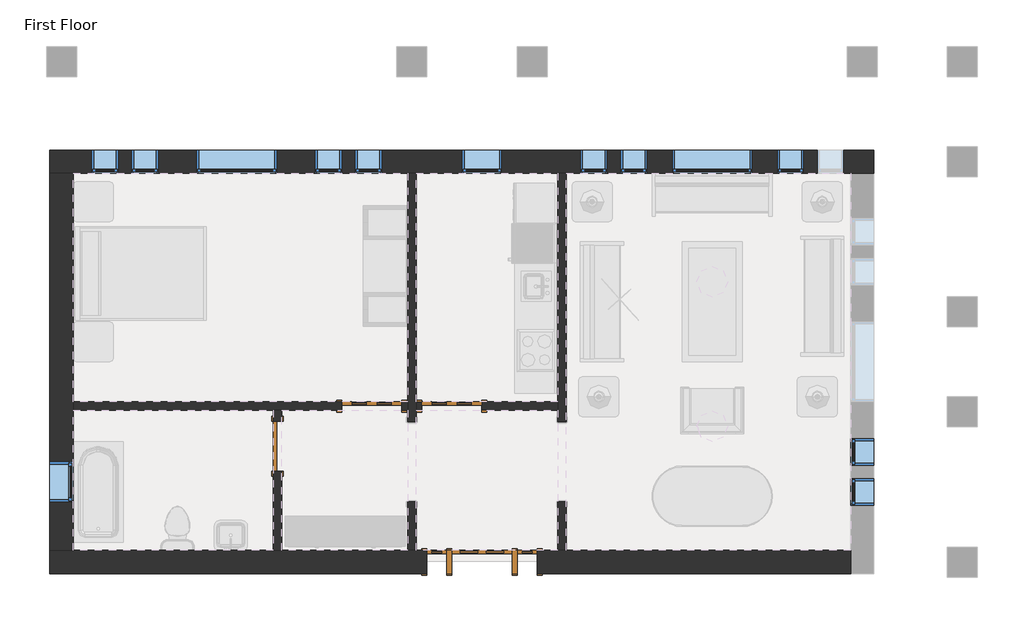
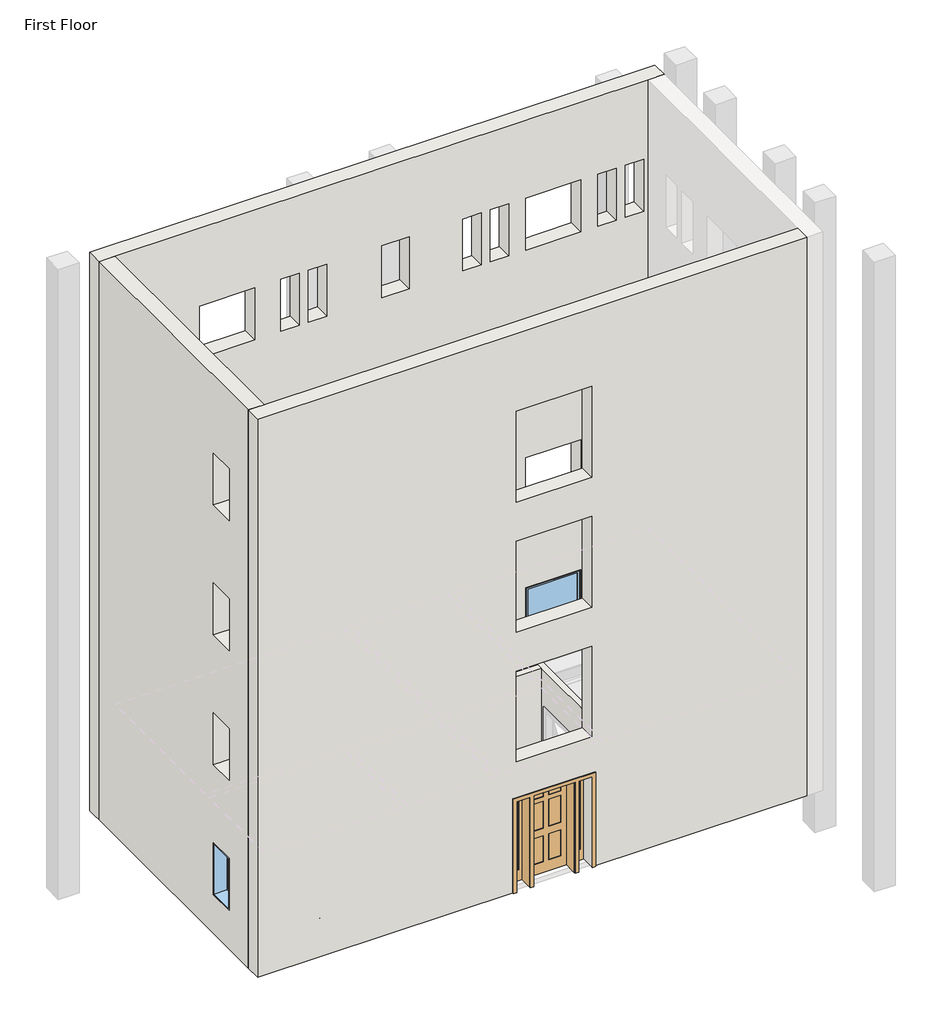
# One storey, part 1 of 2: 13 windows, 8 walls, 4 doors.
"""IFC4 building model written with IfcOpenShell, lengths in millimetres."""

from ifc_helpers import new_model, si_unit, frame, origin, place, context, project, spatial, polyline, outline, extrude, faceted_brep, transform, mapped, element, save
from components import door_829da954, door_2e3b4da2, door_4d6c7550, door_dba5aa2e, window_da97879f, window_d61ef850, window_60baf983, window_6eb97611

model = new_model("IFC4")

# Units and contexts
model_context = context("Model", 3, world=origin())
ifc_project = project(units=[si_unit("LENGTHUNIT", "METRE", prefix="MILLI")], contexts=[model_context])

# Site, building, storey
site = spatial("IfcSite", under=ifc_project)
building = spatial("IfcBuilding", under=site)
storey = spatial("IfcBuildingStorey", under=building, Name="First Floor", Elevation=0.0)

# Doors
placement = place(None, origin())
door_shape = door_829da954(model_context)
element("IfcDoor", 1, ObjectType="Single-Decorative 2 : 36\" x 84\"", at=placement, inside=storey, context=model_context, shape_type="MappedRepresentation", body=[
    mapped(door_shape, transform((-5449.8589563, 6723.5441867, 0.0), x_axis=(-1.0, 0.0, 0.0), y_axis=(0.0, -1.0, 0.0), z_axis=(0.0, 0.0, 1.0))),
])
door_2_shape = door_2e3b4da2(model_context)
element("IfcDoor", 2, ObjectType="Single-Decorative 2 : 36\" x 84\"", at=placement, inside=storey, context=model_context, shape_type="MappedRepresentation", body=[
    mapped(door_2_shape, transform((-6669.0589563, 6723.5441867, 0.0), x_axis=(1.0, 0.0, 0.0), y_axis=(0.0, 1.0, 0.0), z_axis=(0.0, 0.0, 1.0))),
])
door_3_shape = door_4d6c7550(model_context)
element("IfcDoor", 3, ObjectType="Single-Flush : 30\" x 84\"", at=placement, inside=storey, context=model_context, shape_type="MappedRepresentation", body=[
    mapped(door_3_shape, transform((-8105.7464563, 6113.9441867, 0.0), x_axis=(0.0, 1.0, 0.0), y_axis=(-1.0, 0.0, 0.0), z_axis=(0.0, 0.0, 1.0))),
])
door_4_shape = door_dba5aa2e(model_context)
element("IfcDoor", 4, ObjectType="Single-Raised Panel with Sidelights : 36\" x 84\"", at=placement, inside=storey, context=model_context, shape_type="MappedRepresentation", body=[
    mapped(door_4_shape, transform((-4992.6589563, 4350.2316867, 0.0), x_axis=(-1.0, 0.0, 0.0), y_axis=(0.0, -1.0, 0.0), z_axis=(0.0, 0.0, 1.0))),
])

# Walls
element("IfcWall", 5, ObjectType="Exterior - Brick on Mtl. Stud", at=placement, inside=storey, context=model_context, shape_type="Brep", body=[
    faceted_brep([(-11569.6714563, 10270.0191867, 13106.4), (-11217.2464563, 10270.0191867, 13106.4), (622.3285437, 10270.0191867, 13106.4), (974.7535437, 10270.0191867, 13106.4), (974.7535437, 10622.4441867, 13106.4), (-11569.6714563, 10622.4441867, 13106.4), (-11569.6714563, 10270.0191867, 0.0), (-11382.3464563, 10270.0191867, 0.0), (-11217.2464563, 10270.0191867, 0.0), (-6122.9589563, 10270.0191867, 0.0), (-5995.9589563, 10270.0191867, 0.0), (-3836.9589563, 10270.0191867, 0.0), (-3709.9589563, 10270.0191867, 0.0), (622.3285437, 10270.0191867, 0.0), (787.4285437, 10270.0191867, 0.0), (974.7535437, 10270.0191867, 0.0), (-90.4589563, 10270.0191867, 8229.6), (-90.4589563, 10270.0191867, 7010.4), (-496.8589563, 10270.0191867, 7010.4), (-496.8589563, 10270.0191867, 8229.6), (519.1410437, 10270.0191867, 8229.6), (519.1410437, 10270.0191867, 7010.4), (112.7410437, 10270.0191867, 7010.4), (112.7410437, 10270.0191867, 8229.6), (-2884.4589563, 10270.0191867, 8229.6), (-2478.0589563, 10270.0191867, 8229.6), (-2478.0589563, 10270.0191867, 7010.4), (-2884.4589563, 10270.0191867, 7010.4), (-3494.0589563, 10270.0191867, 8229.6), (-3087.6589563, 10270.0191867, 8229.6), (-3087.6589563, 10270.0191867, 7010.4), (-3494.0589563, 10270.0191867, 7010.4), (-7126.2589563, 10270.0191867, 8229.6), (-7126.2589563, 10270.0191867, 7010.4), (-7532.6589563, 10270.0191867, 7010.4), (-7532.6589563, 10270.0191867, 8229.6), (-6516.6589563, 10270.0191867, 8229.6), (-6516.6589563, 10270.0191867, 7010.4), (-6923.0589563, 10270.0191867, 7010.4), (-6923.0589563, 10270.0191867, 8229.6), (-10326.6589563, 10270.0191867, 8229.6), (-9920.2589563, 10270.0191867, 8229.6), (-9920.2589563, 10270.0191867, 7010.4), (-10326.6589563, 10270.0191867, 7010.4), (-10936.2589563, 10270.0191867, 8229.6), (-10529.8589563, 10270.0191867, 8229.6), (-10529.8589563, 10270.0191867, 7010.4), (-10936.2589563, 10270.0191867, 7010.4), (-2097.0589563, 10270.0191867, 8229.6), (-877.8589563, 10270.0191867, 8229.6), (-877.8589563, 10270.0191867, 7010.4), (-2097.0589563, 10270.0191867, 7010.4), (-9336.0589563, 10270.0191867, 8229.6), (-8116.8589563, 10270.0191867, 8229.6), (-8116.8589563, 10270.0191867, 7010.4), (-9336.0589563, 10270.0191867, 7010.4), (-5297.4589563, 10270.0191867, 8229.6), (-4687.8589563, 10270.0191867, 8229.6), (-4687.8589563, 10270.0191867, 7010.4), (-5297.4589563, 10270.0191867, 7010.4), (-90.4589563, 10270.0191867, 5181.6), (-90.4589563, 10270.0191867, 3962.4), (-496.8589563, 10270.0191867, 3962.4), (-496.8589563, 10270.0191867, 5181.6), (519.1410437, 10270.0191867, 5181.6), (519.1410437, 10270.0191867, 3962.4), (112.7410437, 10270.0191867, 3962.4), (112.7410437, 10270.0191867, 5181.6), (-2884.4589563, 10270.0191867, 5181.6), (-2478.0589563, 10270.0191867, 5181.6), (-2478.0589563, 10270.0191867, 3962.4), (-2884.4589563, 10270.0191867, 3962.4), (-3494.0589563, 10270.0191867, 5181.6), (-3087.6589563, 10270.0191867, 5181.6), (-3087.6589563, 10270.0191867, 3962.4), (-3494.0589563, 10270.0191867, 3962.4), (-7126.2589563, 10270.0191867, 5181.6), (-7126.2589563, 10270.0191867, 3962.4), (-7532.6589563, 10270.0191867, 3962.4), (-7532.6589563, 10270.0191867, 5181.6), (-6516.6589563, 10270.0191867, 5181.6), (-6516.6589563, 10270.0191867, 3962.4), (-6923.0589563, 10270.0191867, 3962.4), (-6923.0589563, 10270.0191867, 5181.6), (-10326.6589563, 10270.0191867, 5181.6), (-9920.2589563, 10270.0191867, 5181.6), (-9920.2589563, 10270.0191867, 3962.4), (-10326.6589563, 10270.0191867, 3962.4), (-10936.2589563, 10270.0191867, 5181.6), (-10529.8589563, 10270.0191867, 5181.6), (-10529.8589563, 10270.0191867, 3962.4), (-10936.2589563, 10270.0191867, 3962.4), (-2097.0589563, 10270.0191867, 5181.6), (-877.8589563, 10270.0191867, 5181.6), (-877.8589563, 10270.0191867, 3962.4), (-2097.0589563, 10270.0191867, 3962.4), (-9336.0589563, 10270.0191867, 5181.6), (-8116.8589563, 10270.0191867, 5181.6), (-8116.8589563, 10270.0191867, 3962.4), (-9336.0589563, 10270.0191867, 3962.4), (-5297.4589563, 10270.0191867, 5181.6), (-4687.8589563, 10270.0191867, 5181.6), (-4687.8589563, 10270.0191867, 3962.4), (-5297.4589563, 10270.0191867, 3962.4), (-90.4589563, 10270.0191867, 11277.6), (-90.4589563, 10270.0191867, 10058.4), (-496.8589563, 10270.0191867, 10058.4), (-496.8589563, 10270.0191867, 11277.6), (519.1410437, 10270.0191867, 11277.6), (519.1410437, 10270.0191867, 10058.4), (112.7410437, 10270.0191867, 10058.4), (112.7410437, 10270.0191867, 11277.6), (-2884.4589563, 10270.0191867, 11277.6), (-2478.0589563, 10270.0191867, 11277.6), (-2478.0589563, 10270.0191867, 10058.4), (-2884.4589563, 10270.0191867, 10058.4), (-3494.0589563, 10270.0191867, 11277.6), (-3087.6589563, 10270.0191867, 11277.6), (-3087.6589563, 10270.0191867, 10058.4), (-3494.0589563, 10270.0191867, 10058.4), (-7126.2589563, 10270.0191867, 11277.6), (-7126.2589563, 10270.0191867, 10058.4), (-7532.6589563, 10270.0191867, 10058.4), (-7532.6589563, 10270.0191867, 11277.6), (-6516.6589563, 10270.0191867, 11277.6), (-6516.6589563, 10270.0191867, 10058.4), (-6923.0589563, 10270.0191867, 10058.4), (-6923.0589563, 10270.0191867, 11277.6), (-10326.6589563, 10270.0191867, 11277.6), (-9920.2589563, 10270.0191867, 11277.6), (-9920.2589563, 10270.0191867, 10058.4), (-10326.6589563, 10270.0191867, 10058.4), (-10936.2589563, 10270.0191867, 11277.6), (-10529.8589563, 10270.0191867, 11277.6), (-10529.8589563, 10270.0191867, 10058.4), (-10936.2589563, 10270.0191867, 10058.4), (-2097.0589563, 10270.0191867, 11277.6), (-877.8589563, 10270.0191867, 11277.6), (-877.8589563, 10270.0191867, 10058.4), (-2097.0589563, 10270.0191867, 10058.4), (-9336.0589563, 10270.0191867, 11277.6), (-8116.8589563, 10270.0191867, 11277.6), (-8116.8589563, 10270.0191867, 10058.4), (-9336.0589563, 10270.0191867, 10058.4), (-5297.4589563, 10270.0191867, 11277.6), (-4687.8589563, 10270.0191867, 11277.6), (-4687.8589563, 10270.0191867, 10058.4), (-5297.4589563, 10270.0191867, 10058.4), (-2884.4589563, 10270.0191867, 2133.6), (-2478.0589563, 10270.0191867, 2133.6), (-2478.0589563, 10270.0191867, 914.4), (-2884.4589563, 10270.0191867, 914.4), (-3494.0589563, 10270.0191867, 2133.6), (-3087.6589563, 10270.0191867, 2133.6), (-3087.6589563, 10270.0191867, 914.4), (-3494.0589563, 10270.0191867, 914.4), (-10326.6589563, 10270.0191867, 2133.6), (-9920.2589563, 10270.0191867, 2133.6), (-9920.2589563, 10270.0191867, 914.4), (-10326.6589563, 10270.0191867, 914.4), (-10936.2589563, 10270.0191867, 2133.6), (-10529.8589563, 10270.0191867, 2133.6), (-10529.8589563, 10270.0191867, 914.4), (-10936.2589563, 10270.0191867, 914.4), (-2097.0589563, 10270.0191867, 2133.6), (-877.8589563, 10270.0191867, 2133.6), (-877.8589563, 10270.0191867, 914.4), (-2097.0589563, 10270.0191867, 914.4), (-9336.0589563, 10270.0191867, 2133.6), (-8116.8589563, 10270.0191867, 2133.6), (-8116.8589563, 10270.0191867, 914.4), (-9336.0589563, 10270.0191867, 914.4), (-5297.4589563, 10270.0191867, 2133.6), (-4687.8589563, 10270.0191867, 2133.6), (-4687.8589563, 10270.0191867, 914.4), (-5297.4589563, 10270.0191867, 914.4), (-6516.6589563, 10270.0191867, 2133.6), (-6516.6589563, 10270.0191867, 914.4), (-6923.0589563, 10270.0191867, 914.4), (-6923.0589563, 10270.0191867, 2133.6), (-7126.2589563, 10270.0191867, 2133.6), (-7126.2589563, 10270.0191867, 914.4), (-7532.6589563, 10270.0191867, 914.4), (-7532.6589563, 10270.0191867, 2133.6), (519.1410437, 10270.0191867, 2133.6), (519.1410437, 10270.0191867, 914.4), (112.7410437, 10270.0191867, 914.4), (112.7410437, 10270.0191867, 2133.6), (-90.4589563, 10270.0191867, 2133.6), (-90.4589563, 10270.0191867, 914.4), (-496.8589563, 10270.0191867, 914.4), (-496.8589563, 10270.0191867, 2133.6), (-11569.6714563, 10622.4441867, 0.0), (974.7535437, 10622.4441867, 0.0), (787.4285437, 10622.4441867, 0.0), (-11382.3464563, 10622.4441867, 0.0), (-90.4589563, 10622.4441867, 8229.6), (-496.8589563, 10622.4441867, 8229.6), (-496.8589563, 10622.4441867, 7010.4), (-90.4589563, 10622.4441867, 7010.4), (519.1410437, 10622.4441867, 8229.6), (112.7410437, 10622.4441867, 8229.6), (112.7410437, 10622.4441867, 7010.4), (519.1410437, 10622.4441867, 7010.4), (-2884.4589563, 10622.4441867, 8229.6), (-2884.4589563, 10622.4441867, 7010.4), (-2478.0589563, 10622.4441867, 7010.4), (-2478.0589563, 10622.4441867, 8229.6), (-3494.0589563, 10622.4441867, 8229.6), (-3494.0589563, 10622.4441867, 7010.4), (-3087.6589563, 10622.4441867, 7010.4), (-3087.6589563, 10622.4441867, 8229.6), (-7126.2589563, 10622.4441867, 8229.6), (-7532.6589563, 10622.4441867, 8229.6), (-7532.6589563, 10622.4441867, 7010.4), (-7126.2589563, 10622.4441867, 7010.4), (-6516.6589563, 10622.4441867, 8229.6), (-6923.0589563, 10622.4441867, 8229.6), (-6923.0589563, 10622.4441867, 7010.4), (-6516.6589563, 10622.4441867, 7010.4), (-10326.6589563, 10622.4441867, 8229.6), (-10326.6589563, 10622.4441867, 7010.4), (-9920.2589563, 10622.4441867, 7010.4), (-9920.2589563, 10622.4441867, 8229.6), (-10936.2589563, 10622.4441867, 8229.6), (-10936.2589563, 10622.4441867, 7010.4), (-10529.8589563, 10622.4441867, 7010.4), (-10529.8589563, 10622.4441867, 8229.6), (-2097.0589563, 10622.4441867, 8229.6), (-2097.0589563, 10622.4441867, 7010.4), (-877.8589563, 10622.4441867, 7010.4), (-877.8589563, 10622.4441867, 8229.6), (-9336.0589563, 10622.4441867, 8229.6), (-9336.0589563, 10622.4441867, 7010.4), (-8116.8589563, 10622.4441867, 7010.4), (-8116.8589563, 10622.4441867, 8229.6), (-5297.4589563, 10622.4441867, 8229.6), (-5297.4589563, 10622.4441867, 7010.4), (-4687.8589563, 10622.4441867, 7010.4), (-4687.8589563, 10622.4441867, 8229.6), (-90.4589563, 10622.4441867, 5181.6), (-496.8589563, 10622.4441867, 5181.6), (-496.8589563, 10622.4441867, 3962.4), (-90.4589563, 10622.4441867, 3962.4), (519.1410437, 10622.4441867, 5181.6), (112.7410437, 10622.4441867, 5181.6), (112.7410437, 10622.4441867, 3962.4), (519.1410437, 10622.4441867, 3962.4), (-2884.4589563, 10622.4441867, 5181.6), (-2884.4589563, 10622.4441867, 3962.4), (-2478.0589563, 10622.4441867, 3962.4), (-2478.0589563, 10622.4441867, 5181.6), (-3494.0589563, 10622.4441867, 5181.6), (-3494.0589563, 10622.4441867, 3962.4), (-3087.6589563, 10622.4441867, 3962.4), (-3087.6589563, 10622.4441867, 5181.6), (-7126.2589563, 10622.4441867, 5181.6), (-7532.6589563, 10622.4441867, 5181.6), (-7532.6589563, 10622.4441867, 3962.4), (-7126.2589563, 10622.4441867, 3962.4), (-6516.6589563, 10622.4441867, 5181.6), (-6923.0589563, 10622.4441867, 5181.6), (-6923.0589563, 10622.4441867, 3962.4), (-6516.6589563, 10622.4441867, 3962.4), (-10326.6589563, 10622.4441867, 5181.6), (-10326.6589563, 10622.4441867, 3962.4), (-9920.2589563, 10622.4441867, 3962.4), (-9920.2589563, 10622.4441867, 5181.6), (-10936.2589563, 10622.4441867, 5181.6), (-10936.2589563, 10622.4441867, 3962.4), (-10529.8589563, 10622.4441867, 3962.4), (-10529.8589563, 10622.4441867, 5181.6), (-2097.0589563, 10622.4441867, 5181.6), (-2097.0589563, 10622.4441867, 3962.4), (-877.8589563, 10622.4441867, 3962.4), (-877.8589563, 10622.4441867, 5181.6), (-9336.0589563, 10622.4441867, 5181.6), (-9336.0589563, 10622.4441867, 3962.4), (-8116.8589563, 10622.4441867, 3962.4), (-8116.8589563, 10622.4441867, 5181.6), (-5297.4589563, 10622.4441867, 5181.6), (-5297.4589563, 10622.4441867, 3962.4), (-4687.8589563, 10622.4441867, 3962.4), (-4687.8589563, 10622.4441867, 5181.6), (-90.4589563, 10622.4441867, 11277.6), (-496.8589563, 10622.4441867, 11277.6), (-496.8589563, 10622.4441867, 10058.4), (-90.4589563, 10622.4441867, 10058.4), (519.1410437, 10622.4441867, 11277.6), (112.7410437, 10622.4441867, 11277.6), (112.7410437, 10622.4441867, 10058.4), (519.1410437, 10622.4441867, 10058.4), (-2884.4589563, 10622.4441867, 11277.6), (-2884.4589563, 10622.4441867, 10058.4), (-2478.0589563, 10622.4441867, 10058.4), (-2478.0589563, 10622.4441867, 11277.6), (-3494.0589563, 10622.4441867, 11277.6), (-3494.0589563, 10622.4441867, 10058.4), (-3087.6589563, 10622.4441867, 10058.4), (-3087.6589563, 10622.4441867, 11277.6), (-7126.2589563, 10622.4441867, 11277.6), (-7532.6589563, 10622.4441867, 11277.6), (-7532.6589563, 10622.4441867, 10058.4), (-7126.2589563, 10622.4441867, 10058.4), (-6516.6589563, 10622.4441867, 11277.6), (-6923.0589563, 10622.4441867, 11277.6), (-6923.0589563, 10622.4441867, 10058.4), (-6516.6589563, 10622.4441867, 10058.4), (-10326.6589563, 10622.4441867, 11277.6), (-10326.6589563, 10622.4441867, 10058.4), (-9920.2589563, 10622.4441867, 10058.4), (-9920.2589563, 10622.4441867, 11277.6), (-10936.2589563, 10622.4441867, 11277.6), (-10936.2589563, 10622.4441867, 10058.4), (-10529.8589563, 10622.4441867, 10058.4), (-10529.8589563, 10622.4441867, 11277.6), (-2097.0589563, 10622.4441867, 11277.6), (-2097.0589563, 10622.4441867, 10058.4), (-877.8589563, 10622.4441867, 10058.4), (-877.8589563, 10622.4441867, 11277.6), (-9336.0589563, 10622.4441867, 11277.6), (-9336.0589563, 10622.4441867, 10058.4), (-8116.8589563, 10622.4441867, 10058.4), (-8116.8589563, 10622.4441867, 11277.6), (-5297.4589563, 10622.4441867, 11277.6), (-5297.4589563, 10622.4441867, 10058.4), (-4687.8589563, 10622.4441867, 10058.4), (-4687.8589563, 10622.4441867, 11277.6), (-2884.4589563, 10622.4441867, 2133.6), (-2884.4589563, 10622.4441867, 914.4), (-2478.0589563, 10622.4441867, 914.4), (-2478.0589563, 10622.4441867, 2133.6), (-3494.0589563, 10622.4441867, 2133.6), (-3494.0589563, 10622.4441867, 914.4), (-3087.6589563, 10622.4441867, 914.4), (-3087.6589563, 10622.4441867, 2133.6), (-10326.6589563, 10622.4441867, 2133.6), (-10326.6589563, 10622.4441867, 914.4), (-9920.2589563, 10622.4441867, 914.4), (-9920.2589563, 10622.4441867, 2133.6), (-10936.2589563, 10622.4441867, 2133.6), (-10936.2589563, 10622.4441867, 914.4), (-10529.8589563, 10622.4441867, 914.4), (-10529.8589563, 10622.4441867, 2133.6), (-2097.0589563, 10622.4441867, 2133.6), (-2097.0589563, 10622.4441867, 914.4), (-877.8589563, 10622.4441867, 914.4), (-877.8589563, 10622.4441867, 2133.6), (-9336.0589563, 10622.4441867, 2133.6), (-9336.0589563, 10622.4441867, 914.4), (-8116.8589563, 10622.4441867, 914.4), (-8116.8589563, 10622.4441867, 2133.6), (-5297.4589563, 10622.4441867, 2133.6), (-5297.4589563, 10622.4441867, 914.4), (-4687.8589563, 10622.4441867, 914.4), (-4687.8589563, 10622.4441867, 2133.6), (-6516.6589563, 10622.4441867, 2133.6), (-6923.0589563, 10622.4441867, 2133.6), (-6923.0589563, 10622.4441867, 914.4), (-6516.6589563, 10622.4441867, 914.4), (-7126.2589563, 10622.4441867, 2133.6), (-7532.6589563, 10622.4441867, 2133.6), (-7532.6589563, 10622.4441867, 914.4), (-7126.2589563, 10622.4441867, 914.4), (519.1410437, 10622.4441867, 2133.6), (112.7410437, 10622.4441867, 2133.6), (112.7410437, 10622.4441867, 914.4), (519.1410437, 10622.4441867, 914.4), (-90.4589563, 10622.4441867, 2133.6), (-496.8589563, 10622.4441867, 2133.6), (-496.8589563, 10622.4441867, 914.4), (-90.4589563, 10622.4441867, 914.4), (974.7535437, 10435.1191867, 0.0), (-11569.6714563, 10435.1191867, 0.0), (-11382.3464563, 10435.1191867, 0.0), (787.4285437, 10435.1191867, 0.0)], [[[0, 1, 2, 3, 4, 5]], [[6, 7, 8, 9, 10, 11, 12, 13, 14, 15, 3, 2, 1, 0], [16, 17, 18, 19], [20, 21, 22, 23], [24, 25, 26, 27], [28, 29, 30, 31], [32, 33, 34, 35], [36, 37, 38, 39], [40, 41, 42, 43], [44, 45, 46, 47], [48, 49, 50, 51], [52, 53, 54, 55], [56, 57, 58, 59], [60, 61, 62, 63], [64, 65, 66, 67], [68, 69, 70, 71], [72, 73, 74, 75], [76, 77, 78, 79], [80, 81, 82, 83], [84, 85, 86, 87], [88, 89, 90, 91], [92, 93, 94, 95], [96, 97, 98, 99], [100, 101, 102, 103], [104, 105, 106, 107], [108, 109, 110, 111], [112, 113, 114, 115], [116, 117, 118, 119], [120, 121, 122, 123], [124, 125, 126, 127], [128, 129, 130, 131], [132, 133, 134, 135], [136, 137, 138, 139], [140, 141, 142, 143], [144, 145, 146, 147], [148, 149, 150, 151], [152, 153, 154, 155], [156, 157, 158, 159], [160, 161, 162, 163], [164, 165, 166, 167], [168, 169, 170, 171], [172, 173, 174, 175], [176, 177, 178, 179], [180, 181, 182, 183], [184, 185, 186, 187], [188, 189, 190, 191]], [[192, 5, 4, 193, 194, 195], [196, 197, 198, 199], [200, 201, 202, 203], [204, 205, 206, 207], [208, 209, 210, 211], [212, 213, 214, 215], [216, 217, 218, 219], [220, 221, 222, 223], [224, 225, 226, 227], [228, 229, 230, 231], [232, 233, 234, 235], [236, 237, 238, 239], [240, 241, 242, 243], [244, 245, 246, 247], [248, 249, 250, 251], [252, 253, 254, 255], [256, 257, 258, 259], [260, 261, 262, 263], [264, 265, 266, 267], [268, 269, 270, 271], [272, 273, 274, 275], [276, 277, 278, 279], [280, 281, 282, 283], [284, 285, 286, 287], [288, 289, 290, 291], [292, 293, 294, 295], [296, 297, 298, 299], [300, 301, 302, 303], [304, 305, 306, 307], [308, 309, 310, 311], [312, 313, 314, 315], [316, 317, 318, 319], [320, 321, 322, 323], [324, 325, 326, 327], [328, 329, 330, 331], [332, 333, 334, 335], [336, 337, 338, 339], [340, 341, 342, 343], [344, 345, 346, 347], [348, 349, 350, 351], [352, 353, 354, 355], [356, 357, 358, 359], [360, 361, 362, 363], [364, 365, 366, 367], [368, 369, 370, 371]], [[3, 15, 372, 193, 4]], [[6, 0, 5, 192, 373]], [[7, 6, 373, 374]], [[373, 192, 195, 374]], [[15, 14, 375, 372]], [[195, 194, 375, 374]], [[194, 193, 372, 375]], [[14, 13, 12, 11, 10, 9, 8, 7, 374, 375]], [[17, 16, 196, 199]], [[18, 17, 199, 198]], [[19, 18, 198, 197]], [[16, 19, 197, 196]], [[21, 20, 200, 203]], [[22, 21, 203, 202]], [[23, 22, 202, 201]], [[20, 23, 201, 200]], [[205, 204, 24, 27]], [[206, 205, 27, 26]], [[207, 206, 26, 25]], [[204, 207, 25, 24]], [[209, 208, 28, 31]], [[210, 209, 31, 30]], [[211, 210, 30, 29]], [[208, 211, 29, 28]], [[33, 32, 212, 215]], [[34, 33, 215, 214]], [[35, 34, 214, 213]], [[32, 35, 213, 212]], [[37, 36, 216, 219]], [[38, 37, 219, 218]], [[39, 38, 218, 217]], [[36, 39, 217, 216]], [[221, 220, 40, 43]], [[222, 221, 43, 42]], [[223, 222, 42, 41]], [[220, 223, 41, 40]], [[225, 224, 44, 47]], [[226, 225, 47, 46]], [[227, 226, 46, 45]], [[224, 227, 45, 44]], [[229, 228, 48, 51]], [[230, 229, 51, 50]], [[231, 230, 50, 49]], [[228, 231, 49, 48]], [[233, 232, 52, 55]], [[234, 233, 55, 54]], [[235, 234, 54, 53]], [[232, 235, 53, 52]], [[237, 236, 56, 59]], [[238, 237, 59, 58]], [[239, 238, 58, 57]], [[236, 239, 57, 56]], [[61, 60, 240, 243]], [[62, 61, 243, 242]], [[63, 62, 242, 241]], [[60, 63, 241, 240]], [[65, 64, 244, 247]], [[66, 65, 247, 246]], [[67, 66, 246, 245]], [[64, 67, 245, 244]], [[249, 248, 68, 71]], [[250, 249, 71, 70]], [[251, 250, 70, 69]], [[248, 251, 69, 68]], [[253, 252, 72, 75]], [[254, 253, 75, 74]], [[255, 254, 74, 73]], [[252, 255, 73, 72]], [[77, 76, 256, 259]], [[78, 77, 259, 258]], [[79, 78, 258, 257]], [[76, 79, 257, 256]], [[81, 80, 260, 263]], [[82, 81, 263, 262]], [[83, 82, 262, 261]], [[80, 83, 261, 260]], [[265, 264, 84, 87]], [[266, 265, 87, 86]], [[267, 266, 86, 85]], [[264, 267, 85, 84]], [[269, 268, 88, 91]], [[270, 269, 91, 90]], [[271, 270, 90, 89]], [[268, 271, 89, 88]], [[273, 272, 92, 95]], [[274, 273, 95, 94]], [[275, 274, 94, 93]], [[272, 275, 93, 92]], [[277, 276, 96, 99]], [[278, 277, 99, 98]], [[279, 278, 98, 97]], [[276, 279, 97, 96]], [[281, 280, 100, 103]], [[282, 281, 103, 102]], [[283, 282, 102, 101]], [[280, 283, 101, 100]], [[105, 104, 284, 287]], [[106, 105, 287, 286]], [[107, 106, 286, 285]], [[104, 107, 285, 284]], [[109, 108, 288, 291]], [[110, 109, 291, 290]], [[111, 110, 290, 289]], [[108, 111, 289, 288]], [[293, 292, 112, 115]], [[294, 293, 115, 114]], [[295, 294, 114, 113]], [[292, 295, 113, 112]], [[297, 296, 116, 119]], [[298, 297, 119, 118]], [[299, 298, 118, 117]], [[296, 299, 117, 116]], [[121, 120, 300, 303]], [[122, 121, 303, 302]], [[123, 122, 302, 301]], [[120, 123, 301, 300]], [[125, 124, 304, 307]], [[126, 125, 307, 306]], [[127, 126, 306, 305]], [[124, 127, 305, 304]], [[309, 308, 128, 131]], [[310, 309, 131, 130]], [[311, 310, 130, 129]], [[308, 311, 129, 128]], [[313, 312, 132, 135]], [[314, 313, 135, 134]], [[315, 314, 134, 133]], [[312, 315, 133, 132]], [[317, 316, 136, 139]], [[318, 317, 139, 138]], [[319, 318, 138, 137]], [[316, 319, 137, 136]], [[321, 320, 140, 143]], [[322, 321, 143, 142]], [[323, 322, 142, 141]], [[320, 323, 141, 140]], [[325, 324, 144, 147]], [[326, 325, 147, 146]], [[327, 326, 146, 145]], [[324, 327, 145, 144]], [[329, 328, 148, 151]], [[330, 329, 151, 150]], [[331, 330, 150, 149]], [[328, 331, 149, 148]], [[333, 332, 152, 155]], [[334, 333, 155, 154]], [[335, 334, 154, 153]], [[332, 335, 153, 152]], [[337, 336, 156, 159]], [[338, 337, 159, 158]], [[339, 338, 158, 157]], [[336, 339, 157, 156]], [[341, 340, 160, 163]], [[342, 341, 163, 162]], [[343, 342, 162, 161]], [[340, 343, 161, 160]], [[345, 344, 164, 167]], [[346, 345, 167, 166]], [[347, 346, 166, 165]], [[344, 347, 165, 164]], [[349, 348, 168, 171]], [[350, 349, 171, 170]], [[351, 350, 170, 169]], [[348, 351, 169, 168]], [[353, 352, 172, 175]], [[354, 353, 175, 174]], [[355, 354, 174, 173]], [[352, 355, 173, 172]], [[177, 176, 356, 359]], [[178, 177, 359, 358]], [[179, 178, 358, 357]], [[176, 179, 357, 356]], [[181, 180, 360, 363]], [[182, 181, 363, 362]], [[183, 182, 362, 361]], [[180, 183, 361, 360]], [[185, 184, 364, 367]], [[186, 185, 367, 366]], [[187, 186, 366, 365]], [[184, 187, 365, 364]], [[189, 188, 368, 371]], [[190, 189, 371, 370]], [[191, 190, 370, 369]], [[188, 191, 369, 368]]]),
])
element("IfcWall", 6, ObjectType="Exterior - Brick on Mtl. Stud", at=placement, inside=storey, context=model_context, shape_type="Brep", body=[
    faceted_brep([(-11569.6714563, 4526.4441867, 0.0), (-11217.2464563, 4526.4441867, 0.0), (-8169.2464563, 4526.4441867, 0.0), (-8042.2464563, 4526.4441867, 0.0), (-6122.9589563, 4526.4441867, 0.0), (-5995.9589563, 4526.4441867, 0.0), (-5830.8589563, 4526.4441867, 0.0), (-5830.8589563, 4174.0191867, 0.0), (-11569.6714563, 4174.0191867, 0.0), (-4154.4589563, 4526.4441867, 0.0), (-3836.9589563, 4526.4441867, 0.0), (-3709.9589563, 4526.4441867, 0.0), (622.3285437, 4526.4441867, 0.0), (622.3285437, 4174.0191867, 0.0), (-4154.4589563, 4174.0191867, 0.0), (622.3285437, 4526.4441867, 13106.4), (-11217.2464563, 4526.4441867, 13106.4), (-11569.6714563, 4526.4441867, 13106.4), (-11569.6714563, 4174.0191867, 13106.4), (622.3285437, 4174.0191867, 13106.4), (-5830.8589563, 4526.4441867, 2133.6), (-4154.4589563, 4526.4441867, 2133.6), (-4154.4589563, 4526.4441867, 6096.0), (-4154.4589563, 4526.4441867, 8229.6), (-5830.8589563, 4526.4441867, 8229.6), (-5830.8589563, 4526.4441867, 6096.0), (-4154.4589563, 4526.4441867, 3048.0), (-4154.4589563, 4526.4441867, 5181.6), (-5830.8589563, 4526.4441867, 5181.6), (-5830.8589563, 4526.4441867, 3048.0), (-4154.4589563, 4526.4441867, 9144.0), (-4154.4589563, 4526.4441867, 11277.6), (-5830.8589563, 4526.4441867, 11277.6), (-5830.8589563, 4526.4441867, 9144.0), (-5830.8589563, 4174.0191867, 2133.6), (-4154.4589563, 4174.0191867, 2133.6), (-4154.4589563, 4174.0191867, 6096.0), (-5830.8589563, 4174.0191867, 6096.0), (-5830.8589563, 4174.0191867, 8229.6), (-4154.4589563, 4174.0191867, 8229.6), (-4154.4589563, 4174.0191867, 3048.0), (-5830.8589563, 4174.0191867, 3048.0), (-5830.8589563, 4174.0191867, 5181.6), (-4154.4589563, 4174.0191867, 5181.6), (-4154.4589563, 4174.0191867, 9144.0), (-5830.8589563, 4174.0191867, 9144.0), (-5830.8589563, 4174.0191867, 11277.6), (-4154.4589563, 4174.0191867, 11277.6)], [[[0, 1, 2, 3, 4, 5, 6, 7, 8]], [[9, 10, 11, 12, 13, 14]], [[15, 16, 17, 18, 19]], [[20, 6, 5, 4, 3, 2, 1, 0, 17, 16, 15, 12, 11, 10, 9, 21], [22, 23, 24, 25], [26, 27, 28, 29], [30, 31, 32, 33]], [[8, 7, 34, 35, 14, 13, 19, 18], [36, 37, 38, 39], [40, 41, 42, 43], [44, 45, 46, 47]], [[12, 15, 19, 13]], [[17, 0, 8, 18]], [[34, 7, 6, 20]], [[35, 34, 20, 21]], [[14, 35, 21, 9]], [[37, 36, 22, 25]], [[38, 37, 25, 24]], [[39, 38, 24, 23]], [[36, 39, 23, 22]], [[41, 40, 26, 29]], [[42, 41, 29, 28]], [[43, 42, 28, 27]], [[40, 43, 27, 26]], [[45, 44, 30, 33]], [[46, 45, 33, 32]], [[47, 46, 32, 31]], [[44, 47, 31, 30]]]),
])
element("IfcWall", 7, ObjectType="Exterior - Brick on Mtl. Stud", at=placement, inside=storey, context=model_context, shape_type="Brep", body=[
    faceted_brep([(-11217.2464563, 4526.4441867, 13106.4), (-11217.2464563, 10270.0191867, 13106.4), (-11569.6714563, 10270.0191867, 13106.4), (-11569.6714563, 4526.4441867, 13106.4), (-11217.2464563, 4526.4441867, 0.0), (-11217.2464563, 6660.0441867, 0.0), (-11217.2464563, 6787.0441867, 0.0), (-11217.2464563, 10270.0191867, 0.0), (-11217.2464563, 5264.6316867, 8229.6), (-11217.2464563, 5874.2316867, 8229.6), (-11217.2464563, 5874.2316867, 7010.4), (-11217.2464563, 5264.6316867, 7010.4), (-11217.2464563, 5264.6316867, 5181.6), (-11217.2464563, 5874.2316867, 5181.6), (-11217.2464563, 5874.2316867, 3962.4), (-11217.2464563, 5264.6316867, 3962.4), (-11217.2464563, 5264.6316867, 11277.6), (-11217.2464563, 5874.2316867, 11277.6), (-11217.2464563, 5874.2316867, 10058.4), (-11217.2464563, 5264.6316867, 10058.4), (-11217.2464563, 5264.6316867, 2133.6), (-11217.2464563, 5874.2316867, 2133.6), (-11217.2464563, 5874.2316867, 914.4), (-11217.2464563, 5264.6316867, 914.4), (-11569.6714563, 4526.4441867, 0.0), (-11569.6714563, 10270.0191867, 0.0), (-11569.6714563, 5264.6316867, 8229.6), (-11569.6714563, 5264.6316867, 7010.4), (-11569.6714563, 5874.2316867, 7010.4), (-11569.6714563, 5874.2316867, 8229.6), (-11569.6714563, 5264.6316867, 5181.6), (-11569.6714563, 5264.6316867, 3962.4), (-11569.6714563, 5874.2316867, 3962.4), (-11569.6714563, 5874.2316867, 5181.6), (-11569.6714563, 5264.6316867, 11277.6), (-11569.6714563, 5264.6316867, 10058.4), (-11569.6714563, 5874.2316867, 10058.4), (-11569.6714563, 5874.2316867, 11277.6), (-11569.6714563, 5264.6316867, 2133.6), (-11569.6714563, 5264.6316867, 914.4), (-11569.6714563, 5874.2316867, 914.4), (-11569.6714563, 5874.2316867, 2133.6), (-11382.3464563, 4526.4441867, 0.0), (-11382.3464563, 10270.0191867, 0.0)], [[[0, 1, 2, 3]], [[4, 5, 6, 7, 1, 0], [8, 9, 10, 11], [12, 13, 14, 15], [16, 17, 18, 19], [20, 21, 22, 23]], [[24, 3, 2, 25], [26, 27, 28, 29], [30, 31, 32, 33], [34, 35, 36, 37], [38, 39, 40, 41]], [[4, 0, 3, 24, 42]], [[1, 7, 43, 25, 2]], [[42, 24, 25, 43]], [[7, 6, 5, 4, 42, 43]], [[27, 26, 8, 11]], [[28, 27, 11, 10]], [[29, 28, 10, 9]], [[26, 29, 9, 8]], [[31, 30, 12, 15]], [[32, 31, 15, 14]], [[33, 32, 14, 13]], [[30, 33, 13, 12]], [[35, 34, 16, 19]], [[36, 35, 19, 18]], [[37, 36, 18, 17]], [[34, 37, 17, 16]], [[39, 38, 20, 23]], [[40, 39, 23, 22]], [[41, 40, 22, 21]], [[38, 41, 21, 20]]]),
])
element("IfcWall", 8, ObjectType="Interior - 5\" Partition (2-hr)", at=placement, inside=storey, context=model_context, shape_type="Brep", body=[
    faceted_brep([(-3709.9589563, 10270.0191867, 0.0), (-3709.9589563, 6483.8316867, 0.0), (-3836.9589563, 6483.8316867, 0.0), (-3836.9589563, 6660.0441867, 0.0), (-3836.9589563, 6787.0441867, 0.0), (-3836.9589563, 10270.0191867, 0.0), (-3709.9589563, 5264.6316867, 0.0), (-3709.9589563, 4526.4441867, 0.0), (-3836.9589563, 4526.4441867, 0.0), (-3836.9589563, 5264.6316867, 0.0), (-3836.9589563, 10270.0191867, 3048.0), (-3836.9589563, 6787.0441867, 3048.0), (-3836.9589563, 6660.0441867, 3048.0), (-3836.9589563, 4526.4441867, 3048.0), (-3709.9589563, 4526.4441867, 3048.0), (-3709.9589563, 10270.0191867, 3048.0), (-3836.9589563, 6483.8316867, 2133.6), (-3836.9589563, 5264.6316867, 2133.6), (-3709.9589563, 6483.8316867, 2133.6), (-3709.9589563, 5264.6316867, 2133.6)], [[[0, 1, 2, 3, 4, 5]], [[6, 7, 8, 9]], [[10, 11, 12, 13, 14, 15]], [[5, 4, 3, 2, 16, 17, 9, 8, 13, 12, 11, 10]], [[18, 1, 0, 15, 14, 7, 6, 19]], [[5, 10, 15, 0]], [[13, 8, 7, 14]], [[9, 17, 19, 6]], [[16, 2, 1, 18]], [[17, 16, 18, 19]]]),
])
element("IfcWall", 9, ObjectType="Interior - 5\" Partition (2-hr)", at=placement, inside=storey, context=model_context, shape_type="Brep", body=[
    faceted_brep([(-6122.9589563, 4526.4441867, 0.0), (-6122.9589563, 5264.6316867, 0.0), (-5995.9589563, 5264.6316867, 0.0), (-5995.9589563, 4526.4441867, 0.0), (-6122.9589563, 6483.8316867, 0.0), (-6122.9589563, 6660.0441867, 0.0), (-6122.9589563, 6787.0441867, 0.0), (-6122.9589563, 10270.0191867, 0.0), (-5995.9589563, 10270.0191867, 0.0), (-5995.9589563, 6787.0441867, 0.0), (-5995.9589563, 6660.0441867, 0.0), (-5995.9589563, 6483.8316867, 0.0), (-6122.9589563, 10270.0191867, 3048.0), (-6122.9589563, 6787.0441867, 3048.0), (-6122.9589563, 6660.0441867, 3048.0), (-6122.9589563, 4526.4441867, 3048.0), (-5995.9589563, 4526.4441867, 3048.0), (-5995.9589563, 6660.0441867, 3048.0), (-5995.9589563, 6787.0441867, 3048.0), (-5995.9589563, 10270.0191867, 3048.0), (-6122.9589563, 5264.6316867, 2133.6), (-6122.9589563, 6483.8316867, 2133.6), (-5995.9589563, 5264.6316867, 2133.6), (-5995.9589563, 6483.8316867, 2133.6)], [[[0, 1, 2, 3]], [[4, 5, 6, 7, 8, 9, 10, 11]], [[12, 13, 14, 15, 16, 17, 18, 19]], [[20, 1, 0, 15, 14, 13, 12, 7, 6, 5, 4, 21]], [[3, 2, 22, 23, 11, 10, 9, 8, 19, 18, 17, 16]], [[7, 12, 19, 8]], [[15, 0, 3, 16]], [[11, 23, 21, 4]], [[22, 2, 1, 20]], [[23, 22, 20, 21]]]),
])
element("IfcWall", 10, ObjectType="Interior - 5\" Partition (2-hr)", at=placement, inside=storey, context=model_context, shape_type="Brep", body=[
    faceted_brep([(-6122.9589563, 6660.0441867, 0.0), (-6211.8589563, 6660.0441867, 0.0), (-6211.8589563, 6787.0441867, 0.0), (-6122.9589563, 6787.0441867, 0.0), (-7126.2589563, 6660.0441867, 0.0), (-8042.2464563, 6660.0441867, 0.0), (-8169.2464563, 6660.0441867, 0.0), (-11217.2464563, 6660.0441867, 0.0), (-11217.2464563, 6787.0441867, 0.0), (-7126.2589563, 6787.0441867, 0.0), (-11217.2464563, 6660.0441867, 3048.0), (-8169.2464563, 6660.0441867, 3048.0), (-8042.2464563, 6660.0441867, 3048.0), (-6122.9589563, 6660.0441867, 3048.0), (-6122.9589563, 6787.0441867, 3048.0), (-11217.2464563, 6787.0441867, 3048.0), (-6211.8589563, 6660.0441867, 2133.6), (-7126.2589563, 6660.0441867, 2133.6), (-6211.8589563, 6787.0441867, 2133.6), (-7126.2589563, 6787.0441867, 2133.6)], [[[0, 1, 2, 3]], [[4, 5, 6, 7, 8, 9]], [[10, 11, 12, 13, 14, 15]], [[16, 1, 0, 13, 12, 11, 10, 7, 6, 5, 4, 17]], [[3, 2, 18, 19, 9, 8, 15, 14]], [[7, 10, 15, 8]], [[13, 0, 3, 14]], [[18, 2, 1, 16]], [[19, 18, 16, 17]], [[9, 19, 17, 4]]]),
])
element("IfcWall", 11, ObjectType="Interior - 5\" Partition (2-hr)", at=placement, inside=storey, context=model_context, shape_type="SweptSolid", body=[
    extrude(outline(polyline([(6660.0441867, 0.0), (6494.9441867, 0.0), (6494.9441867, 2133.6), (5732.9441867, 2133.6), (5732.9441867, 0.0), (4526.4441867, 0.0), (4526.4441867, 3048.0), (6660.0441867, 3048.0), (6660.0441867, 0.0)])), frame((-8169.2464563, 0.0, 0.0), z_axis=(1.0, 0.0, 0.0), x_axis=(0.0, 1.0, 0.0)), (0.0, 0.0, 1.0), 127.0),
])
element("IfcWall", 12, ObjectType="Interior - 5\" Partition (2-hr)", at=placement, inside=storey, context=model_context, shape_type="SweptSolid", body=[
    extrude(outline(polyline([(0.0, -5995.9589563), (0.0, -5907.0589563), (2133.6, -5907.0589563), (2133.6, -4992.6589563), (0.0, -4992.6589563), (0.0, -3836.9589563), (3048.0, -3836.9589563), (3048.0, -5995.9589563), (0.0, -5995.9589563)])), frame((0.0, 6660.0441867, 0.0), z_axis=(0.0, 1.0, 0.0), x_axis=(0.0, 0.0, 1.0)), (0.0, 0.0, 1.0), 127.0),
])

# Windows
window_shape = window_da97879f(model_context)
element("IfcWindow", 13, ObjectType="Fixed : 16\" x 48\"", at=placement, inside=storey, context=model_context, shape_type="MappedRepresentation", body=[
    mapped(window_shape, transform((-10771.1589563, 10446.2316867, 0.0), x_axis=(-1.0, 0.0, 0.0), y_axis=(0.0, -1.0, 0.0), z_axis=(0.0, 0.0, 1.0))),
])
element("IfcWindow", 14, ObjectType="Fixed : 16\" x 48\"", at=placement, inside=storey, context=model_context, shape_type="MappedRepresentation", body=[
    mapped(window_shape, transform((-10161.5589563, 10446.2316867, 0.0), x_axis=(-1.0, 0.0, 0.0), y_axis=(0.0, -1.0, 0.0), z_axis=(0.0, 0.0, 1.0))),
])
element("IfcWindow", 15, ObjectType="Fixed : 16\" x 48\"", at=placement, inside=storey, context=model_context, shape_type="MappedRepresentation", body=[
    mapped(window_shape, transform((-3328.9589563, 10446.2316867, 0.0), x_axis=(-1.0, 0.0, 0.0), y_axis=(0.0, -1.0, 0.0), z_axis=(0.0, 0.0, 1.0))),
])
element("IfcWindow", 16, ObjectType="Fixed : 16\" x 48\"", at=placement, inside=storey, context=model_context, shape_type="MappedRepresentation", body=[
    mapped(window_shape, transform((-2719.3589563, 10446.2316867, 0.0), x_axis=(-1.0, 0.0, 0.0), y_axis=(0.0, -1.0, 0.0), z_axis=(0.0, 0.0, 1.0))),
])
window_2_shape = window_d61ef850(model_context)
element("IfcWindow", 17, ObjectType="Fixed : 16\" x 48\"", at=placement, inside=storey, context=model_context, shape_type="MappedRepresentation", body=[
    mapped(window_2_shape, transform((-6681.7589563, 10446.2316867, 0.0), x_axis=(1.0, 0.0, 0.0), y_axis=(0.0, 1.0, 0.0), z_axis=(0.0, 0.0, 1.0))),
])
element("IfcWindow", 18, ObjectType="Fixed : 16\" x 48\"", at=placement, inside=storey, context=model_context, shape_type="MappedRepresentation", body=[
    mapped(window_2_shape, transform((-7291.3589563, 10446.2316867, 0.0), x_axis=(1.0, 0.0, 0.0), y_axis=(0.0, 1.0, 0.0), z_axis=(0.0, 0.0, 1.0))),
])
element("IfcWindow", 19, ObjectType="Fixed : 16\" x 48\"", at=placement, inside=storey, context=model_context, shape_type="MappedRepresentation", body=[
    mapped(window_2_shape, transform((-255.5589563, 10446.2316867, 0.0), x_axis=(1.0, 0.0, 0.0), y_axis=(0.0, 1.0, 0.0), z_axis=(0.0, 0.0, 1.0))),
])
element("IfcWindow", 20, ObjectType="Fixed : 16\" x 48\"", at=placement, inside=storey, context=model_context, shape_type="MappedRepresentation", body=[
    mapped(window_2_shape, transform((798.5410437, 5378.9316867, 0.0), x_axis=(0.0, -1.0, 0.0), y_axis=(1.0, 0.0, 0.0), z_axis=(0.0, 0.0, 1.0))),
])
element("IfcWindow", 21, ObjectType="Fixed : 16\" x 48\"", at=placement, inside=storey, context=model_context, shape_type="MappedRepresentation", body=[
    mapped(window_2_shape, transform((798.5410437, 5988.5316867, 0.0), x_axis=(0.0, -1.0, 0.0), y_axis=(1.0, 0.0, 0.0), z_axis=(0.0, 0.0, 1.0))),
])
window_3_shape = window_60baf983(model_context)
element("IfcWindow", 22, ObjectType="Fixed : 24\" x 48\"", at=placement, inside=storey, context=model_context, shape_type="MappedRepresentation", body=[
    mapped(window_3_shape, transform((-5030.7589563, 10446.2316867, 0.0), x_axis=(-1.0, 0.0, 0.0), y_axis=(0.0, -1.0, 0.0), z_axis=(0.0, 0.0, 1.0))),
])
element("IfcWindow", 23, ObjectType="Fixed : 24\" x 48\"", at=placement, inside=storey, context=model_context, shape_type="MappedRepresentation", body=[
    mapped(window_3_shape, transform((-11393.4589563, 5531.3316867, 0.0), x_axis=(0.0, -1.0, 0.0), y_axis=(1.0, 0.0, 0.0), z_axis=(0.0, 0.0, 1.0))),
])
window_4_shape = window_6eb97611(model_context)
element("IfcWindow", 24, ObjectType="Fixed : 48\" x 48\"", at=placement, inside=storey, context=model_context, shape_type="MappedRepresentation", body=[
    mapped(window_4_shape, transform((-8764.5589563, 10446.2316867, 0.0), x_axis=(-1.0, 0.0, 0.0), y_axis=(0.0, -1.0, 0.0), z_axis=(0.0, 0.0, 1.0))),
])
element("IfcWindow", 25, ObjectType="Fixed : 48\" x 48\"", at=placement, inside=storey, context=model_context, shape_type="MappedRepresentation", body=[
    mapped(window_4_shape, transform((-1525.5589563, 10446.2316867, 0.0), x_axis=(-1.0, 0.0, 0.0), y_axis=(0.0, -1.0, 0.0), z_axis=(0.0, 0.0, 1.0))),
])

save(model, "model.ifc")
